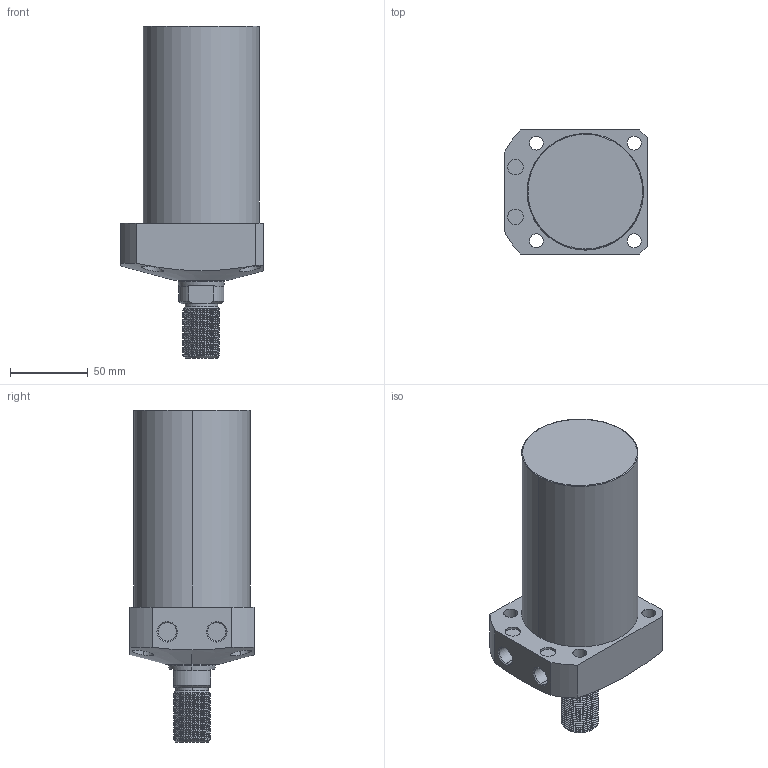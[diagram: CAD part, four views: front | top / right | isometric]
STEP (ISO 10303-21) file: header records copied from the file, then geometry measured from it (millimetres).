
FILE_DESCRIPTION (( 'STEP AP203' ), '1' );
FILE_NAME ('CLL-075CT-090.STEP', '2020-01-08T12:01:53', ( '' ), ( '' ), 'SwSTEP 2.0', 'SolidWorks 2015', '' );
FILE_SCHEMA (( 'CONFIG_CONTROL_DESIGN' ));
Length unit declared in the file: millimetre
Products named in the file (1): CLL-075CT-090
Bounding box: 92 x 80 x 214 mm (x, y, z)
Volume: 802346.1 mm3; surface area: 64724.2 mm2
Topology: 1 solids, 1 shells, 121 faces, 310 edges, 202 vertices
Faces by surface type: cylinder 77, plane 23, cone 17, torus 2, bspline 2
Entity records: 6524 total; most frequent: CARTESIAN_POINT 3734, ORIENTED_EDGE 620, DIRECTION 517, EDGE_CURVE 310, AXIS2_PLACEMENT_3D 204, VERTEX_POINT 202, EDGE_LOOP 140, ADVANCED_FACE 121
